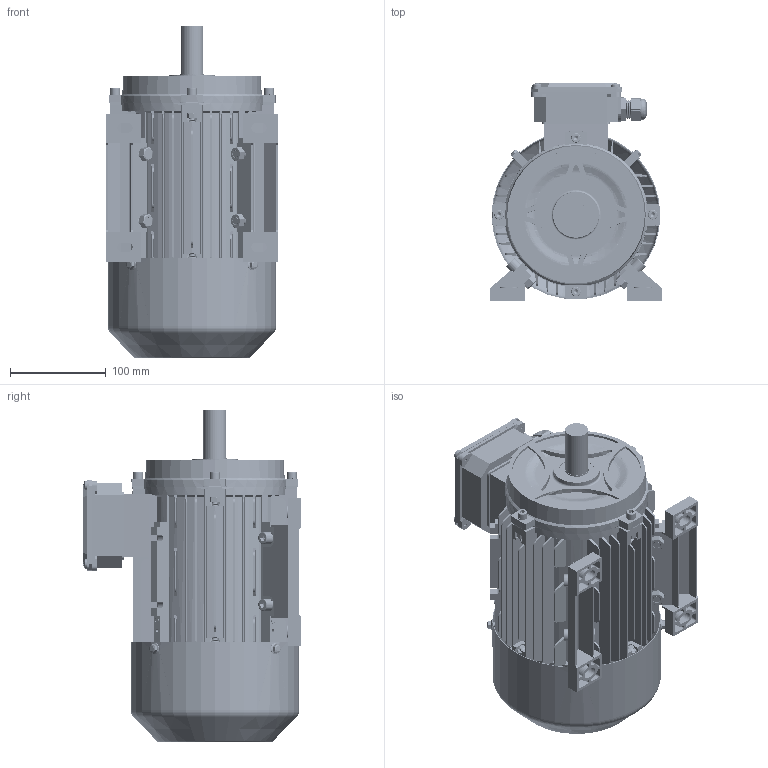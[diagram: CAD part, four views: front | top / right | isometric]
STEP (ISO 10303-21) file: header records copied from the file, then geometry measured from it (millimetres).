
FILE_DESCRIPTION (( 'STEP AP203' ), '1' );
FILE_NAME ('ME3-90LB3 3D.STEP', '2024-06-06T08:50:08', ( 'User' ), ( 'China' ), 'SwSTEP 2.0', 'SolidWorks 2018', '' );
FILE_SCHEMA (( 'CONFIG_CONTROL_DESIGN' ));
Length unit declared in the file: millimetre
Products named in the file (22): MS63-71諉盄碟裔; 蹟簸M20X1.5; 8.034.09005ME2-90L儂褲; hexagon socket head cap screws gb_GB_FASTENER_SCREWS_HSHCS M8X25-S; 黑芛20X1.5; 8.014.09012加长后盖（铁）; wave single coil spring lock washers gb_GB_FASTENER_WASHER_WSLW 8; hexagon socket head cap screws gb_GB_FASTENER_SCREWS_HSHCS M6X30-S; deep groove ball bearings gb_Rolling bearings 6205 GB 276-94; hex nuts, style 2-grades ab gb_GB_HEXAGON_TYPE13 M8 Normal Style-C; hex nuts, style 2-grades ab gb_GB_HEXAGON_TYPE13 M6 Normal Style-C; 8.200.09005ME2L 蛌粣; 蚐猾37X25X7; 8.306.09004ME2-90瑞欶; 8.013.09011 ME2-90B3傷裔; ME3-90LB3  3D; hex flange bolts-heavy grade b gb_GB_FASTENER_BOLT_HFBB M5X10-C; 8.046.09005ME2 90L 菁褐; wave single coil spring lock washers gb_GB_FASTENER_WASHER_WSLW 6; MS63-71諉盄碟菁釱; cross recessed pan head screws gb_GB_CROSS_SCREWS_TYPE1 M5X8-8  H type-S; 蹟杶郋M20X1.5
Assembly tree (58 placements, depth 2):
  ME3-90LB3  3D
    8.034.09005ME2-90L儂褲
    8.014.09012加长后盖（铁）
    deep groove ball bearings gb_Rolling bearings 6205 GB 276-94  x2
    8.200.09005ME2L 蛌粣
    8.013.09011 ME2-90B3傷裔
    8.046.09005ME2 90L 菁褐  x2
    MS63-71諉盄碟菁釱
    蹟杶郋M20X1.5
    蹟簸M20X1.5
    黑芛20X1.5
    hexagon socket head cap screws gb_GB_FASTENER_SCREWS_HSHCS M6X30-S  x8
    hex nuts, style 2-grades ab gb_GB_HEXAGON_TYPE13 M6 Normal Style-C  x7
    8.306.09004ME2-90瑞欶
    hex flange bolts-heavy grade b gb_GB_FASTENER_BOLT_HFBB M5X10-C  x4
    wave single coil spring lock washers gb_GB_FASTENER_WASHER_WSLW 6  x4
    cross recessed pan head screws gb_GB_CROSS_SCREWS_TYPE1 M5X8-8  H type-S  x8
    MS63-71諉盄碟裔
    hexagon socket head cap screws gb_GB_FASTENER_SCREWS_HSHCS M8X25-S  x4
    wave single coil spring lock washers gb_GB_FASTENER_WASHER_WSLW 8  x4
    hex nuts, style 2-grades ab gb_GB_HEXAGON_TYPE13 M8 Normal Style-C  x4
    蚐猾37X25X7
Bounding box: 180.36 x 228 x 347.62 mm (x, y, z)
Volume: 1297021.5 mm3; surface area: 888960.2 mm2
Topology: 67 solids, 67 shells, 8004 faces, 19600 edges, 11670 vertices
Faces by surface type: cone 2769, plane 2671, cylinder 2099, torus 215, bspline 170, sphere 80
Entity records: 144774 total; most frequent: CARTESIAN_POINT 45855, ORIENTED_EDGE 21124, DIRECTION 18394, EDGE_CURVE 10562, VERTEX_POINT 6777, AXIS2_PLACEMENT_3D 6155, LINE 6084, VECTOR 6084
